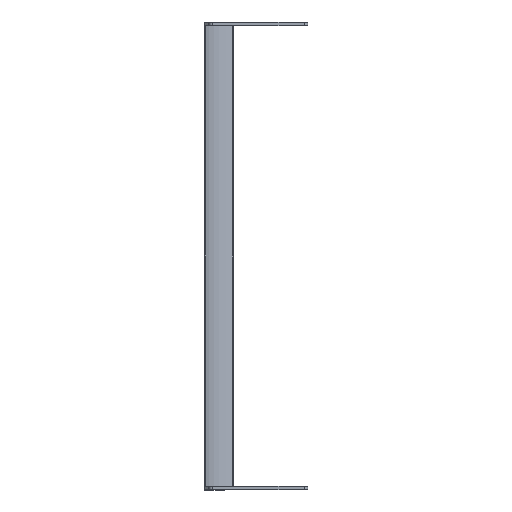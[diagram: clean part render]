
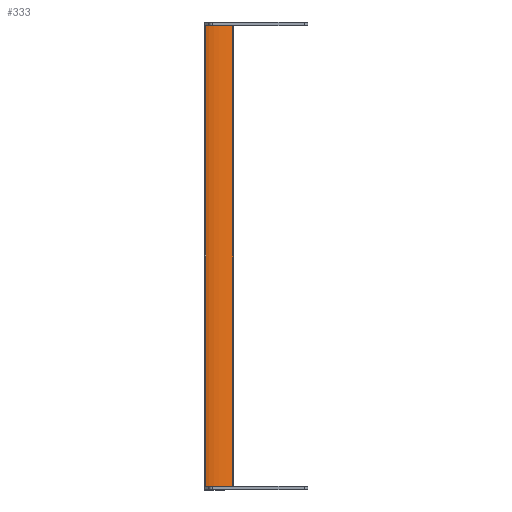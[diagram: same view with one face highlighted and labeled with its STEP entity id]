
A CAD part, left-side view. The second image highlights one B-rep face of the part: STEP entity #333.
In plain terms, the highlighted cylindrical face has radius 40.64 mm (diameter 81.28 mm), a partial arc.
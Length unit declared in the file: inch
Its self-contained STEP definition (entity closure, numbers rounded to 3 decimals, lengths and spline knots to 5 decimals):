
#40=CARTESIAN_POINT('',(-1.52,1.63,-8.118));
#41=DIRECTION('',(0.,0.,-1.));
#42=DIRECTION('',(0.914,-0.405,0.));
#43=AXIS2_PLACEMENT_3D('',#40,#41,#42);
#87=CARTESIAN_POINT('',(-1.52,1.63,8.118));
#88=DIRECTION('',(0.,0.,-1.));
#89=DIRECTION('',(0.914,-0.405,0.));
#90=AXIS2_PLACEMENT_3D('',#87,#88,#89);
#118=DIRECTION('',(0.,0.,1.));
#119=VECTOR('',#118,16.236);
#120=CARTESIAN_POINT('',(-1.00032,0.11675,-8.118));
#121=LINE('',#120,#119);
#122=DIRECTION('',(0.,0.,1.));
#123=VECTOR('',#122,16.236);
#124=CARTESIAN_POINT('',(-0.05742,0.98126,-8.118));
#125=LINE('',#124,#123);
#154=CARTESIAN_POINT('',(-0.05742,0.98126,-8.118));
#155=VERTEX_POINT('',#154);
#156=CARTESIAN_POINT('',(-1.00032,0.11675,-8.118));
#157=VERTEX_POINT('',#156);
#174=CARTESIAN_POINT('',(-0.05742,0.98126,8.118));
#175=VERTEX_POINT('',#174);
#176=CARTESIAN_POINT('',(-1.00032,0.11675,8.118));
#177=VERTEX_POINT('',#176);
#321=CARTESIAN_POINT('',(-1.52,1.63,-8.118));
#322=DIRECTION('',(0.,0.,1.));
#323=DIRECTION('',(1.,0.,0.));
#324=AXIS2_PLACEMENT_3D('',#321,#322,#323);
#325=CYLINDRICAL_SURFACE('',#324,1.6);
#326=ORIENTED_EDGE('',*,*,#191,.F.);
#328=ORIENTED_EDGE('',*,*,#327,.T.);
#329=ORIENTED_EDGE('',*,*,#247,.T.);
#330=ORIENTED_EDGE('',*,*,#314,.F.);
#331=EDGE_LOOP('',(#326,#328,#329,#330));
#332=FACE_OUTER_BOUND('',#331,.F.);
#44=CIRCLE('',#43,1.6);
#91=CIRCLE('',#90,1.6);
#191=EDGE_CURVE('',#155,#157,#44,.T.);
#247=EDGE_CURVE('',#175,#177,#91,.T.);
#314=EDGE_CURVE('',#157,#177,#121,.T.);
#327=EDGE_CURVE('',#155,#175,#125,.T.);
#333=ADVANCED_FACE('',(#332),#325,.F.);
